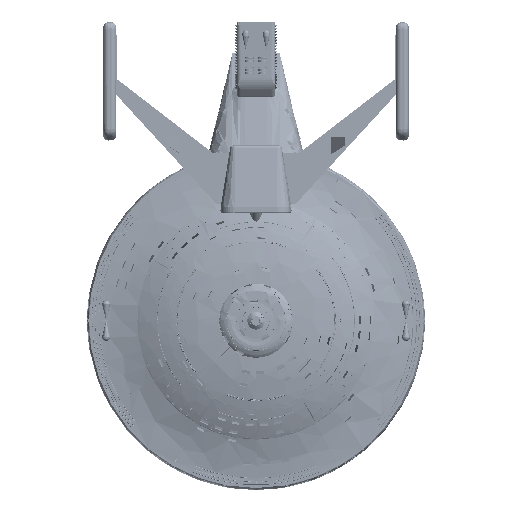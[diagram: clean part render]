
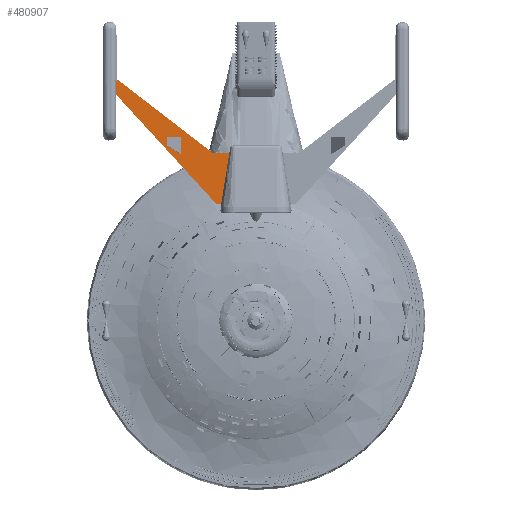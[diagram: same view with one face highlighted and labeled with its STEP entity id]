
A CAD part, top view. The second image highlights one B-rep face of the part: STEP entity #480907.
In plain terms, the highlighted free-form (B-spline) face has degree [1, 1] with [2, 2] control points.
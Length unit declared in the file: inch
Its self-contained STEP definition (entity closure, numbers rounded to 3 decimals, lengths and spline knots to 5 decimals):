
#480845=CARTESIAN_POINT('',(44.94951,75.20741,19.02848));
#480846=CARTESIAN_POINT('',(44.94951,99.34211,19.02848));
#480847=CARTESIAN_POINT('',(22.80089,75.20741,19.02848));
#480848=CARTESIAN_POINT('',(22.80089,99.34211,19.02848));
#480849=B_SPLINE_SURFACE_WITH_KNOTS('',1,1,((#480845,#480847),(#480846,#480848)),.UNSPECIFIED.,.F.,.F.,.U.,(2,2),(2,2),(0.0,24.1347),(0.0,22.14861),.UNSPECIFIED.);
#480850=CARTESIAN_POINT('',(44.94951,84.73258,19.02848));
#480851=VERTEX_POINT('',#480850);
#480852=CARTESIAN_POINT('',(43.42939,75.20741,19.02848));
#480853=VERTEX_POINT('',#480852);
#480854=CARTESIAN_POINT('',(44.94951,84.73258,19.02848));
#480855=CARTESIAN_POINT('',(44.4984,81.91022,19.02848));
#480856=CARTESIAN_POINT('',(43.42939,75.20741,19.02848));
#480864=(BOUNDED_CURVE()B_SPLINE_CURVE(2,(#480854,#480855,#480856),.UNSPECIFIED.,.F.,.U.)B_SPLINE_CURVE_WITH_KNOTS((3,3),(1.29712,10.47598),.UNSPECIFIED.)CURVE()GEOMETRIC_REPRESENTATION_ITEM()RATIONAL_B_SPLINE_CURVE((1.027,1.109,1.0))REPRESENTATION_ITEM(''));
#480865=EDGE_CURVE('',#480851,#480853,#480864,.T.);
#480866=ORIENTED_EDGE('',*,*,#480865,.F.);
#480867=CARTESIAN_POINT('',(41.75717,84.73258,19.02848));
#480868=VERTEX_POINT('',#480867);
#480869=CARTESIAN_POINT('',(44.94951,84.73258,19.02848));
#480870=DIRECTION('',(-1.0,0.0,0.0));
#480871=VECTOR('',#480870,3.19234);
#480872=LINE('',#480869,#480871);
#480873=EDGE_CURVE('',#480851,#480868,#480872,.T.);
#480874=ORIENTED_EDGE('',*,*,#480873,.T.);
#480875=CARTESIAN_POINT('',(22.80089,99.34211,19.02848));
#480876=VERTEX_POINT('',#480875);
#480877=CARTESIAN_POINT('',(22.80089,99.34211,19.02848));
#480878=DIRECTION('',(0.792,-0.61,0.0));
#480879=VECTOR('',#480878,23.9328);
#480880=LINE('',#480877,#480879);
#480881=EDGE_CURVE('',#480876,#480868,#480880,.T.);
#480882=ORIENTED_EDGE('',*,*,#480881,.F.);
#480883=CARTESIAN_POINT('',(22.80089,96.72077,19.02848));
#480884=VERTEX_POINT('',#480883);
#480885=CARTESIAN_POINT('',(22.80089,96.72077,19.02848));
#480886=DIRECTION('',(0.0,1.0,0.0));
#480887=VECTOR('',#480886,2.62134);
#480888=LINE('',#480885,#480887);
#480889=EDGE_CURVE('',#480884,#480876,#480888,.T.);
#480890=ORIENTED_EDGE('',*,*,#480889,.F.);
#480891=CARTESIAN_POINT('',(42.50885,75.20741,19.02848));
#480892=VERTEX_POINT('',#480891);
#480893=CARTESIAN_POINT('',(42.50885,75.20741,19.02848));
#480894=DIRECTION('',(-0.675,0.737,0.0));
#480895=VECTOR('',#480894,29.17582);
#480896=LINE('',#480893,#480895);
#480897=EDGE_CURVE('',#480892,#480884,#480896,.T.);
#480898=ORIENTED_EDGE('',*,*,#480897,.F.);
#480899=CARTESIAN_POINT('',(43.42939,75.20741,19.02848));
#480900=DIRECTION('',(-1.0,0.0,0.0));
#480901=VECTOR('',#480900,0.92054);
#480902=LINE('',#480899,#480901);
#480903=EDGE_CURVE('',#480853,#480892,#480902,.T.);
#480904=ORIENTED_EDGE('',*,*,#480903,.F.);
#480905=EDGE_LOOP('',(#480866,#480874,#480882,#480890,#480898,#480904));
#480906=FACE_OUTER_BOUND('',#480905,.T.);
#480907=ADVANCED_FACE('',(#480906),#480849,.T.);
